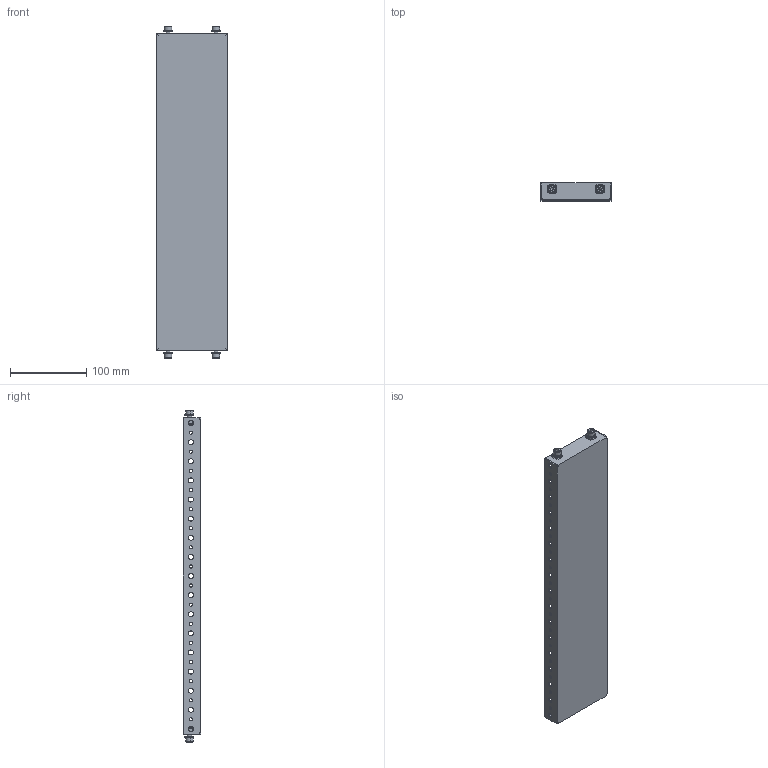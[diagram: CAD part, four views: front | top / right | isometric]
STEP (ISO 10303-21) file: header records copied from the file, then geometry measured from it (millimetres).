
FILE_DESCRIPTION(('Open CASCADE Model'),'2;1');
FILE_NAME('Open CASCADE Shape Model','2025-02-27T10:31:41',('Author'),( 'Open CASCADE'),'Open CASCADE STEP processor 7.8','Open CASCADE 7.8' ,'Unknown');
FILE_SCHEMA(('AUTOMOTIVE_DESIGN { 1 0 10303 214 1 1 1 1 }'));
Length unit declared in the file: millimetre
Products named in the file (5): Compound1; Solid1; Solid2; Solid3; Solid4
Assembly tree (13 placements, depth 2):
  Compound1
    Solid1
    Solid2  x4
    Solid3  x4
    Solid4  x4
Bounding box: 92.5 x 23 x 434.2 mm (x, y, z)
Volume: 92834.1 mm3; surface area: 127093.7 mm2
Topology: 13 solids, 13 shells, 782 faces, 2192 edges, 1428 vertices
Faces by surface type: cylinder 388, plane 346, cone 32, torus 16
Entity records: 12052 total; most frequent: CARTESIAN_POINT 2256, DIRECTION 2082, ORIENTED_EDGE 1992, EDGE_CURVE 996, AXIS2_PLACEMENT_3D 777, VERTEX_POINT 657, LINE 528, VECTOR 528
